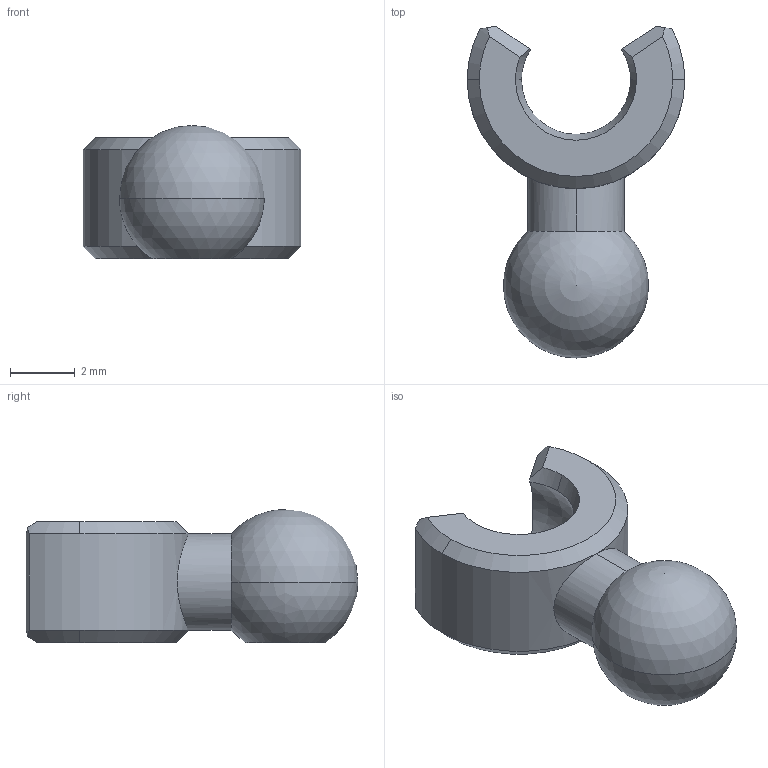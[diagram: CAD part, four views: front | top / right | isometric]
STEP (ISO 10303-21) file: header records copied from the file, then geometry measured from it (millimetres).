
FILE_DESCRIPTION (( 'STEP AP214' ), '1' );
FILE_NAME ('Tail Joint.STEP', '2023-12-23T22:19:59', ( '' ), ( '' ), 'SwSTEP 2.0', 'SolidWorks 2023', '' );
FILE_SCHEMA (( 'AUTOMOTIVE_DESIGN' ));
Length unit declared in the file: millimetre
Products named in the file (1): Tail Joint
Bounding box: 6.75 x 10.29 x 4.12 mm (x, y, z)
Volume: 112.9 mm3; surface area: 185.2 mm2
Topology: 1 solids, 1 shells, 32 faces, 91 edges, 59 vertices
Faces by surface type: cone 12, plane 11, cylinder 5, sphere 4
Entity records: 1092 total; most frequent: CARTESIAN_POINT 262, DIRECTION 177, ORIENTED_EDGE 170, EDGE_CURVE 85, AXIS2_PLACEMENT_3D 73, VERTEX_POINT 56, CIRCLE 40, EDGE_LOOP 33
